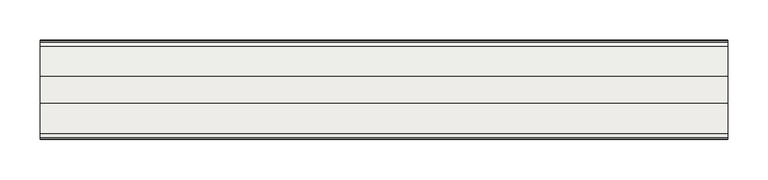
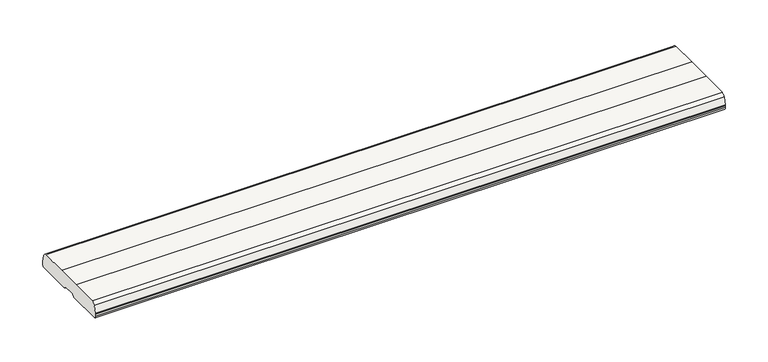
"""IFC4 building model written with IfcOpenShell, lengths in millimetres: slab geometry, ROSA GRES_121 CM : Pieza 121 CM_Tresor_Java_Anti-Slip."""

from ifc_helpers import new_model, si_unit, point, frame, frame_2d, origin, place, context, project, spatial, polyline, circle_curve, trimmed, segment, composite_curve, outline, extrude, source, transform, mapped, element, save


def slab_af1f98bc(model_context):
    return source(origin(), model_context, "Body", "SweptSolid", [
        extrude(outline(composite_curve([segment(polyline([(122.780004, -4.4288005), (125.2726851, -14.1746663)]), True, "CONTINUOUS"), segment(trimmed(circle_curve(frame_2d((120.5, -15.6651284)), 5.0), [point((125.2726851, -14.1746663))], [point((125.5, -15.6651284))], False, "CARTESIAN"), True, "CONTINUOUS"), segment(polyline([(125.5, -15.6651284), (125.5, -17.9933959)]), True, "CONTINUOUS"), segment(trimmed(circle_curve(frame_2d((120.4972512, -17.9933959)), 5.0027488), [point((125.5, -17.9933959))], [point((123.5971345, -21.92))], False, "CARTESIAN"), True, "CONTINUOUS"), segment(polyline([(123.5971345, -21.92), (76.1600446, -21.92)]), True, "CONTINUOUS"), segment(trimmed(circle_curve(frame_2d((76.1600446, -19.92)), 2.0), [point((76.1600446, -21.92))], [point((74.4339023, -20.9301647))], False, "CARTESIAN"), True, "CONTINUOUS"), segment(trimmed(circle_curve(frame_2d((70.1185466, -23.4555766)), 5.0), [point((74.4339023, -20.9301647))], [point((70.1185466, -18.4555766))], True, "CARTESIAN"), True, "CONTINUOUS"), segment(polyline([(70.1185466, -18.4555766), (57.8814534, -18.4555766)]), True, "CONTINUOUS"), segment(trimmed(circle_curve(frame_2d((57.8814534, -23.4555766)), 5.0), [point((57.8814534, -18.4555766))], [point((53.5660977, -20.9301647))], True, "CARTESIAN"), True, "CONTINUOUS"), segment(trimmed(circle_curve(frame_2d((51.8399554, -19.92)), 2.0), [point((53.5660977, -20.9301647))], [point((51.8399554, -21.92))], False, "CARTESIAN"), True, "CONTINUOUS"), segment(polyline([(51.8399554, -21.92), (4.4028655, -21.92)]), True, "CONTINUOUS"), segment(trimmed(circle_curve(frame_2d((7.5027488, -17.9933959)), 5.0027488), [point((4.4028655, -21.92))], [point((2.5, -17.9933959))], False, "CARTESIAN"), True, "CONTINUOUS"), segment(polyline([(2.5, -17.9933959), (2.5, -15.6651284)]), True, "CONTINUOUS"), segment(trimmed(circle_curve(frame_2d((7.5, -15.6651284)), 5.0), [point((2.5, -15.6651284))], [point((2.7273149, -14.1746663))], False, "CARTESIAN"), True, "CONTINUOUS"), segment(polyline([(2.7273149, -14.1746663), (5.219996, -4.4288005)]), True, "CONTINUOUS"), segment(trimmed(circle_curve(frame_2d((9.9926811, -5.9192626)), 5.0), [point((5.219996, -4.4288005))], [point((9.9075888, -0.9199867))], False, "CARTESIAN"), True, "CONTINUOUS"), segment(polyline([(9.9075888, -0.9199867), (46.9815344, -0.2889537)]), True, "CONTINUOUS"), segment(trimmed(circle_curve(frame_2d((64.0, -1000.1441291)), 1000.0), [point((46.9815344, -0.2889537))], [point((81.0184656, -0.2889537))], False, "CARTESIAN"), True, "CONTINUOUS"), segment(polyline([(81.0184656, -0.2889537), (118.0924112, -0.9199867)]), True, "CONTINUOUS"), segment(trimmed(circle_curve(frame_2d((118.0073189, -5.9192626)), 5.0), [point((118.0924112, -0.9199867))], [point((122.780004, -4.4288005))], False, "CARTESIAN"), True, "CONTINUOUS")], self_intersect=False)), frame((0.0, 0.0, 0.0), z_axis=(1.0, 0.0, 0.0), x_axis=(0.0, 1.0, 0.0)), (0.0, 0.0, 1.0), 850.0),
    ])


if __name__ == "__main__":
    model = new_model("IFC4")
    model_context = context("Model", 3, world=origin())
    ifc_project = project(units=[si_unit("LENGTHUNIT", "METRE", prefix="MILLI")], contexts=[model_context])
    site = spatial("IfcSite", under=ifc_project)
    building = spatial("IfcBuilding", under=site)
    placement = place(None, origin())
    slab_shape = slab_af1f98bc(model_context)
    element("IfcSlab", 1, ObjectType="ROSA GRES_121 CM : Pieza 121 CM_Tresor_Java_Anti-Slip", at=placement, inside=building, context=model_context, shape_type="MappedRepresentation", body=[
        mapped(slab_shape, transform((0.0, 0.0, 0.0), x_axis=(1.0, 0.0, 0.0), y_axis=(0.0, 1.0, 0.0), z_axis=(0.0, 0.0, 1.0))),
    ])
    save(model, "model.ifc")
